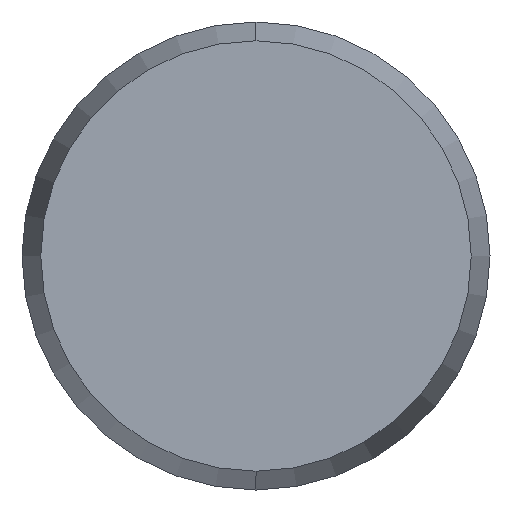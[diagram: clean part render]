
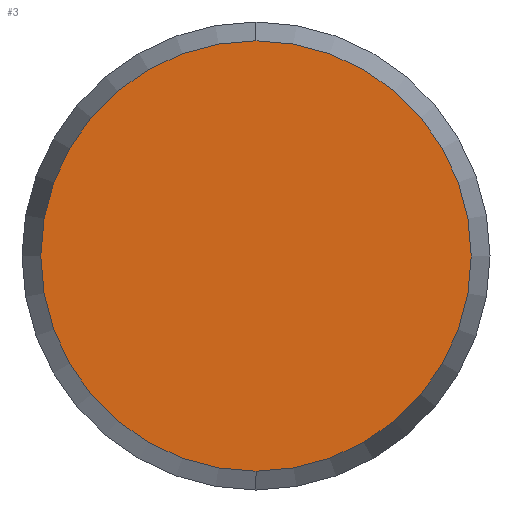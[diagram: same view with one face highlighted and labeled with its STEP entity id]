
A CAD part, left-side view. The second image highlights one B-rep face of the part: STEP entity #3.
In plain terms, the highlighted planar face has unit normal (-1, 0, 0).
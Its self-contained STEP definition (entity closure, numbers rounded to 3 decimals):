
#1 = EDGE_LOOP ( 'NONE', ( #28, #29 ) ) ;
#3 = ADVANCED_FACE ( 'NONE', ( #221 ), #206, .F. ) ;
#20 = EDGE_CURVE ( 'NONE', #208, #207, #138, .T. ) ;
#28 = ORIENTED_EDGE ( 'NONE', *, *, #234, .F. ) ;
#29 = ORIENTED_EDGE ( 'NONE', *, *, #20, .F. ) ;
#69 = DIRECTION ( 'NONE',  ( 0., 0., -1. ) ) ;
#70 = DIRECTION ( 'NONE',  ( 1., 0., 0. ) ) ;
#71 = CARTESIAN_POINT ( 'NONE',  ( -8., 0., 0. ) ) ;
#72 = AXIS2_PLACEMENT_3D ( 'NONE', #71, #70, #69 ) ;
#73 = CIRCLE ( 'NONE', #72, 3.678 ) ;
#81 = CARTESIAN_POINT ( 'NONE',  ( -8., 0., -3.678 ) ) ;
#82 = CARTESIAN_POINT ( 'NONE',  ( -8., 0., 3.678 ) ) ;
#129 = DIRECTION ( 'NONE',  ( 0., 0., -1. ) ) ;
#130 = DIRECTION ( 'NONE',  ( 1., 0., 0. ) ) ;
#131 = CARTESIAN_POINT ( 'NONE',  ( -8., 0., 0. ) ) ;
#132 = AXIS2_PLACEMENT_3D ( 'NONE', #131, #130, #129 ) ;
#138 = CIRCLE ( 'NONE', #132, 3.678 ) ;
#173 = DIRECTION ( 'NONE',  ( 0., 0., -1. ) ) ;
#203 = DIRECTION ( 'NONE',  ( 1., 0., 0. ) ) ;
#204 = CARTESIAN_POINT ( 'NONE',  ( -8., 0., 0. ) ) ;
#205 = AXIS2_PLACEMENT_3D ( 'NONE', #204, #203, #173 ) ;
#206 = PLANE ( 'NONE',  #205 ) ;
#207 = VERTEX_POINT ( 'NONE', #82 ) ;
#208 = VERTEX_POINT ( 'NONE', #81 ) ;
#221 = FACE_OUTER_BOUND ( 'NONE', #1, .T. ) ;
#234 = EDGE_CURVE ( 'NONE', #207, #208, #73, .T. ) ;
